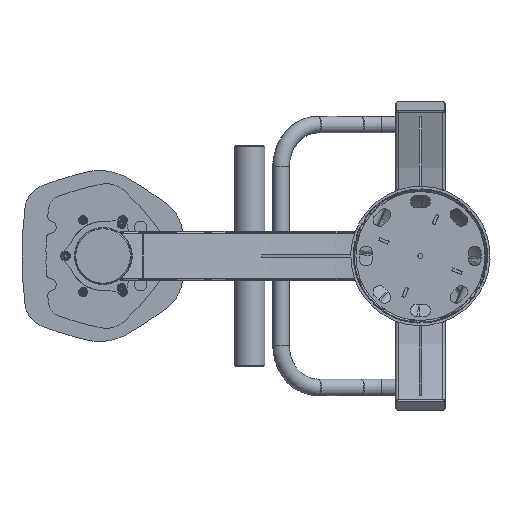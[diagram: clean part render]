
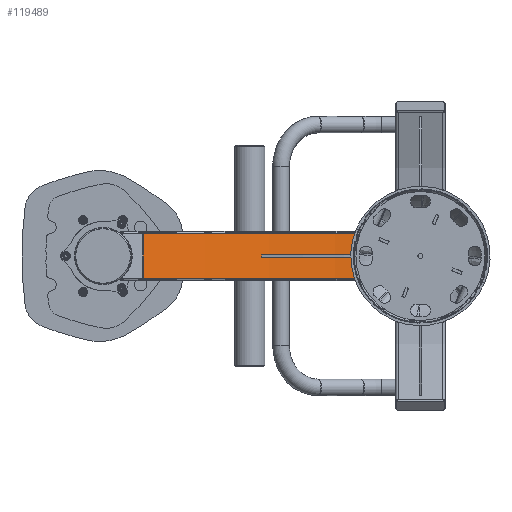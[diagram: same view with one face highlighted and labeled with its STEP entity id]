
A CAD part, front view. The second image highlights one B-rep face of the part: STEP entity #119489.
In plain terms, the highlighted cylindrical face has radius 1175 mm (diameter 2350 mm), a partial arc.
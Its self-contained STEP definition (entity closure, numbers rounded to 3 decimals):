
#7038 = CARTESIAN_POINT ( 'NONE',  ( 0., 0., 45. ) ) ;
#7669 = ORIENTED_EDGE ( 'NONE', *, *, #99071, .F. ) ;
#8390 = DIRECTION ( 'NONE',  ( 0., 0., 1. ) ) ;
#11995 = DIRECTION ( 'NONE',  ( 0., 0., -1. ) ) ;
#12635 = FACE_OUTER_BOUND ( 'NONE', #94260, .T. ) ;
#17608 = CIRCLE ( 'NONE', #44472, 1175. ) ;
#18043 = ORIENTED_EDGE ( 'NONE', *, *, #25789, .T. ) ;
#20918 = VECTOR ( 'NONE', #8390, 1000. ) ;
#24913 = EDGE_CURVE ( 'NONE', #49113, #122241, #17608, .T. ) ;
#25789 = EDGE_CURVE ( 'NONE', #61467, #122241, #118823, .T. ) ;
#27708 = DIRECTION ( 'NONE',  ( 0., 0., -1. ) ) ;
#30264 = CIRCLE ( 'NONE', #46857, 1175. ) ;
#30277 = EDGE_CURVE ( 'NONE', #106565, #61467, #30264, .T. ) ;
#31374 = CYLINDRICAL_SURFACE ( 'NONE', #105047, 1175. ) ;
#44472 = AXIS2_PLACEMENT_3D ( 'NONE', #7038, #27708, #87856 ) ;
#46857 = AXIS2_PLACEMENT_3D ( 'NONE', #92999, #111750, #64583 ) ;
#47143 = CARTESIAN_POINT ( 'NONE',  ( -35.484, 1174.464, 45. ) ) ;
#48953 = DIRECTION ( 'NONE',  ( 0., 0., 1. ) ) ;
#49113 = VERTEX_POINT ( 'NONE', #60311 ) ;
#58084 = CARTESIAN_POINT ( 'NONE',  ( -35.484, 1174.464, -50. ) ) ;
#60311 = CARTESIAN_POINT ( 'NONE',  ( -558.69, 1033.678, 45. ) ) ;
#61467 = VERTEX_POINT ( 'NONE', #101226 ) ;
#64583 = DIRECTION ( 'NONE',  ( -1., 0., 0. ) ) ;
#87856 = DIRECTION ( 'NONE',  ( -1., 0., 0. ) ) ;
#88997 = CARTESIAN_POINT ( 'NONE',  ( 0., 0., -216.752 ) ) ;
#89108 = ORIENTED_EDGE ( 'NONE', *, *, #30277, .T. ) ;
#92999 = CARTESIAN_POINT ( 'NONE',  ( 0., 0., -45. ) ) ;
#94260 = EDGE_LOOP ( 'NONE', ( #89108, #18043, #108079, #7669 ) ) ;
#99071 = EDGE_CURVE ( 'NONE', #106565, #49113, #127425, .T. ) ;
#100326 = VECTOR ( 'NONE', #48953, 1000. ) ;
#101226 = CARTESIAN_POINT ( 'NONE',  ( -35.484, 1174.464, -45. ) ) ;
#105047 = AXIS2_PLACEMENT_3D ( 'NONE', #88997, #11995, #118745 ) ;
#106565 = VERTEX_POINT ( 'NONE', #126873 ) ;
#106749 = CARTESIAN_POINT ( 'NONE',  ( -558.69, 1033.678, -50. ) ) ;
#108079 = ORIENTED_EDGE ( 'NONE', *, *, #24913, .F. ) ;
#111750 = DIRECTION ( 'NONE',  ( 0., 0., -1. ) ) ;
#118745 = DIRECTION ( 'NONE',  ( -1., 0., 0. ) ) ;
#118823 = LINE ( 'NONE', #58084, #100326 ) ;
#119489 = ADVANCED_FACE ( 'NONE', ( #12635 ), #31374, .F. ) ;
#122241 = VERTEX_POINT ( 'NONE', #47143 ) ;
#126873 = CARTESIAN_POINT ( 'NONE',  ( -558.69, 1033.678, -45. ) ) ;
#127425 = LINE ( 'NONE', #106749, #20918 ) ;
